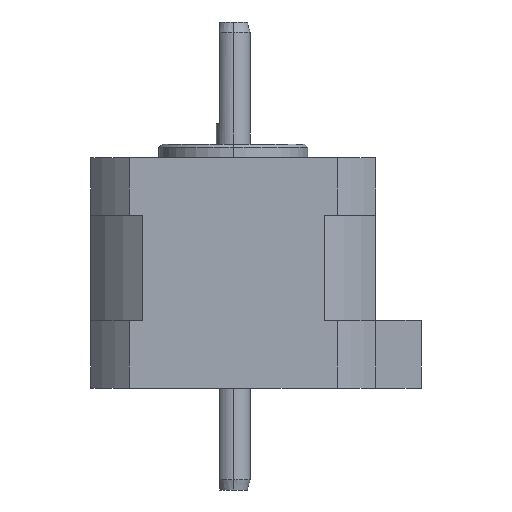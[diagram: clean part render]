
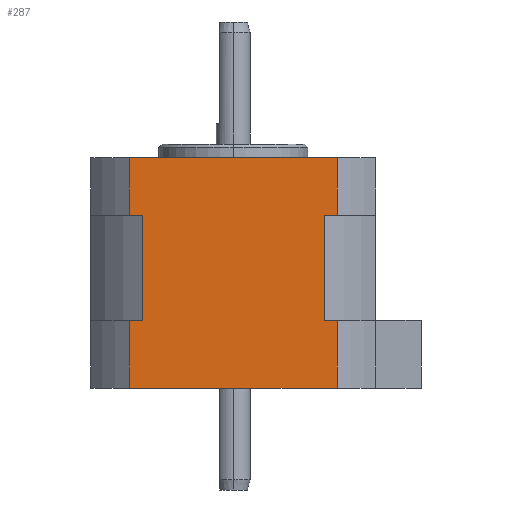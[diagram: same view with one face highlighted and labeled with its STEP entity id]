
A CAD part, left-side view. The second image highlights one B-rep face of the part: STEP entity #287.
In plain terms, the highlighted planar face has unit normal (-1, 0, 0).
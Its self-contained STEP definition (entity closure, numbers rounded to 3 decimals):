
#10 = VECTOR ( 'NONE', #1429, 1000. ) ;
#33 = CARTESIAN_POINT ( 'NONE',  ( -21., 15.33, -10.5 ) ) ;
#39 = ORIENTED_EDGE ( 'NONE', *, *, #1475, .F. ) ;
#57 = CARTESIAN_POINT ( 'NONE',  ( -21., 21., -2. ) ) ;
#71 = VECTOR ( 'NONE', #1257, 1000. ) ;
#88 = LINE ( 'NONE', #1728, #914 ) ;
#96 = CARTESIAN_POINT ( 'NONE',  ( -21., 21., -10.5 ) ) ;
#102 = LINE ( 'NONE', #1953, #463 ) ;
#103 = LINE ( 'NONE', #1955, #1398 ) ;
#108 = CARTESIAN_POINT ( 'NONE',  ( -21., -15.33, -2. ) ) ;
#155 = EDGE_CURVE ( 'NONE', #1333, #1796, #88, .T. ) ;
#164 = VERTEX_POINT ( 'NONE', #1101 ) ;
#185 = EDGE_CURVE ( 'NONE', #1921, #1796, #1888, .T. ) ;
#189 = CARTESIAN_POINT ( 'NONE',  ( -21., 21., -10.5 ) ) ;
#212 = ORIENTED_EDGE ( 'NONE', *, *, #1000, .T. ) ;
#231 = CARTESIAN_POINT ( 'NONE',  ( -21., 15.33, -36. ) ) ;
#248 = VERTEX_POINT ( 'NONE', #1997 ) ;
#263 = LINE ( 'NONE', #57, #389 ) ;
#279 = VERTEX_POINT ( 'NONE', #949 ) ;
#287 = ADVANCED_FACE ( 'NONE', ( #1523 ), #304, .F. ) ;
#304 = PLANE ( 'NONE',  #1534 ) ;
#375 = EDGE_CURVE ( 'NONE', #1776, #1164, #263, .T. ) ;
#389 = VECTOR ( 'NONE', #1910, 1000. ) ;
#407 = LINE ( 'NONE', #189, #1615 ) ;
#463 = VECTOR ( 'NONE', #1750, 1000. ) ;
#500 = EDGE_CURVE ( 'NONE', #1333, #164, #1545, .T. ) ;
#518 = EDGE_CURVE ( 'NONE', #2026, #279, #1710, .T. ) ;
#544 = VECTOR ( 'NONE', #1165, 1000. ) ;
#548 = ORIENTED_EDGE ( 'NONE', *, *, #983, .F. ) ;
#602 = ORIENTED_EDGE ( 'NONE', *, *, #668, .F. ) ;
#668 = EDGE_CURVE ( 'NONE', #164, #1973, #1798, .T. ) ;
#679 = EDGE_CURVE ( 'NONE', #1934, #757, #102, .T. ) ;
#709 = ORIENTED_EDGE ( 'NONE', *, *, #155, .T. ) ;
#715 = ORIENTED_EDGE ( 'NONE', *, *, #1583, .F. ) ;
#743 = ORIENTED_EDGE ( 'NONE', *, *, #185, .F. ) ;
#757 = VERTEX_POINT ( 'NONE', #1176 ) ;
#807 = EDGE_LOOP ( 'NONE', ( #1152, #602, #1410, #709, #743, #548, #1845, #212, #1590, #39, #715, #1467 ) ) ;
#914 = VECTOR ( 'NONE', #1517, 1000. ) ;
#949 = CARTESIAN_POINT ( 'NONE',  ( -21., -13.379, -10.5 ) ) ;
#983 = EDGE_CURVE ( 'NONE', #1934, #1921, #1833, .T. ) ;
#1000 = EDGE_CURVE ( 'NONE', #757, #2026, #1568, .T. ) ;
#1101 = CARTESIAN_POINT ( 'NONE',  ( -21., 13.379, -10.5 ) ) ;
#1132 = DIRECTION ( 'NONE',  ( 0., 0., 1. ) ) ;
#1150 = DIRECTION ( 'NONE',  ( 0., 1., 0. ) ) ;
#1152 = ORIENTED_EDGE ( 'NONE', *, *, #1612, .F. ) ;
#1164 = VERTEX_POINT ( 'NONE', #1778 ) ;
#1165 = DIRECTION ( 'NONE',  ( 0., 1., 0. ) ) ;
#1176 = CARTESIAN_POINT ( 'NONE',  ( -21., -15.33, -26. ) ) ;
#1200 = DIRECTION ( 'NONE',  ( 0., 1., 0. ) ) ;
#1257 = DIRECTION ( 'NONE',  ( 0., 0., 1. ) ) ;
#1288 = CARTESIAN_POINT ( 'NONE',  ( -21., -13.379, -26. ) ) ;
#1289 = DIRECTION ( 'NONE',  ( 0., 0., 1. ) ) ;
#1333 = VERTEX_POINT ( 'NONE', #1450 ) ;
#1340 = VECTOR ( 'NONE', #1200, 1000. ) ;
#1341 = CARTESIAN_POINT ( 'NONE',  ( -21., 13.379, -26. ) ) ;
#1364 = CARTESIAN_POINT ( 'NONE',  ( -21., 13.379, -26. ) ) ;
#1377 = CARTESIAN_POINT ( 'NONE',  ( -21., 21., -10.5 ) ) ;
#1398 = VECTOR ( 'NONE', #1751, 1000. ) ;
#1406 = CARTESIAN_POINT ( 'NONE',  ( -21., -15.33, -36. ) ) ;
#1410 = ORIENTED_EDGE ( 'NONE', *, *, #500, .F. ) ;
#1411 = CARTESIAN_POINT ( 'NONE',  ( -21., -15.33, -36. ) ) ;
#1429 = DIRECTION ( 'NONE',  ( 0., 0., -1. ) ) ;
#1437 = VECTOR ( 'NONE', #1289, 1000. ) ;
#1450 = CARTESIAN_POINT ( 'NONE',  ( -21., 13.379, -26. ) ) ;
#1467 = ORIENTED_EDGE ( 'NONE', *, *, #375, .T. ) ;
#1470 = CARTESIAN_POINT ( 'NONE',  ( -21., 15.33, -36. ) ) ;
#1475 = EDGE_CURVE ( 'NONE', #248, #279, #407, .T. ) ;
#1500 = CARTESIAN_POINT ( 'NONE',  ( -21., -13.379, -26. ) ) ;
#1517 = DIRECTION ( 'NONE',  ( 0., 1., 0. ) ) ;
#1523 = FACE_OUTER_BOUND ( 'NONE', #807, .T. ) ;
#1534 = AXIS2_PLACEMENT_3D ( 'NONE', #96, #1947, #1741 ) ;
#1545 = LINE ( 'NONE', #1341, #1846 ) ;
#1568 = LINE ( 'NONE', #1364, #1972 ) ;
#1583 = EDGE_CURVE ( 'NONE', #1776, #248, #1848, .T. ) ;
#1590 = ORIENTED_EDGE ( 'NONE', *, *, #518, .T. ) ;
#1612 = EDGE_CURVE ( 'NONE', #1973, #1164, #103, .T. ) ;
#1615 = VECTOR ( 'NONE', #2042, 1000. ) ;
#1638 = CARTESIAN_POINT ( 'NONE',  ( -21., -15.33, -36. ) ) ;
#1710 = LINE ( 'NONE', #1500, #1437 ) ;
#1728 = CARTESIAN_POINT ( 'NONE',  ( -21., 13.379, -26. ) ) ;
#1741 = DIRECTION ( 'NONE',  ( 0., 1., 0. ) ) ;
#1750 = DIRECTION ( 'NONE',  ( 0., 0., 1. ) ) ;
#1751 = DIRECTION ( 'NONE',  ( 0., 0., 1. ) ) ;
#1776 = VERTEX_POINT ( 'NONE', #108 ) ;
#1778 = CARTESIAN_POINT ( 'NONE',  ( -21., 15.33, -2. ) ) ;
#1796 = VERTEX_POINT ( 'NONE', #1911 ) ;
#1798 = LINE ( 'NONE', #1377, #544 ) ;
#1833 = LINE ( 'NONE', #1411, #1340 ) ;
#1845 = ORIENTED_EDGE ( 'NONE', *, *, #679, .T. ) ;
#1846 = VECTOR ( 'NONE', #1132, 1000. ) ;
#1848 = LINE ( 'NONE', #1638, #10 ) ;
#1888 = LINE ( 'NONE', #1470, #71 ) ;
#1910 = DIRECTION ( 'NONE',  ( 0., 1., 0. ) ) ;
#1911 = CARTESIAN_POINT ( 'NONE',  ( -21., 15.33, -26. ) ) ;
#1921 = VERTEX_POINT ( 'NONE', #231 ) ;
#1934 = VERTEX_POINT ( 'NONE', #1406 ) ;
#1947 = DIRECTION ( 'NONE',  ( 1., 0., 0. ) ) ;
#1953 = CARTESIAN_POINT ( 'NONE',  ( -21., -15.33, -36. ) ) ;
#1955 = CARTESIAN_POINT ( 'NONE',  ( -21., 15.33, -36. ) ) ;
#1972 = VECTOR ( 'NONE', #1150, 1000. ) ;
#1973 = VERTEX_POINT ( 'NONE', #33 ) ;
#1997 = CARTESIAN_POINT ( 'NONE',  ( -21., -15.33, -10.5 ) ) ;
#2026 = VERTEX_POINT ( 'NONE', #1288 ) ;
#2042 = DIRECTION ( 'NONE',  ( 0., 1., 0. ) ) ;
